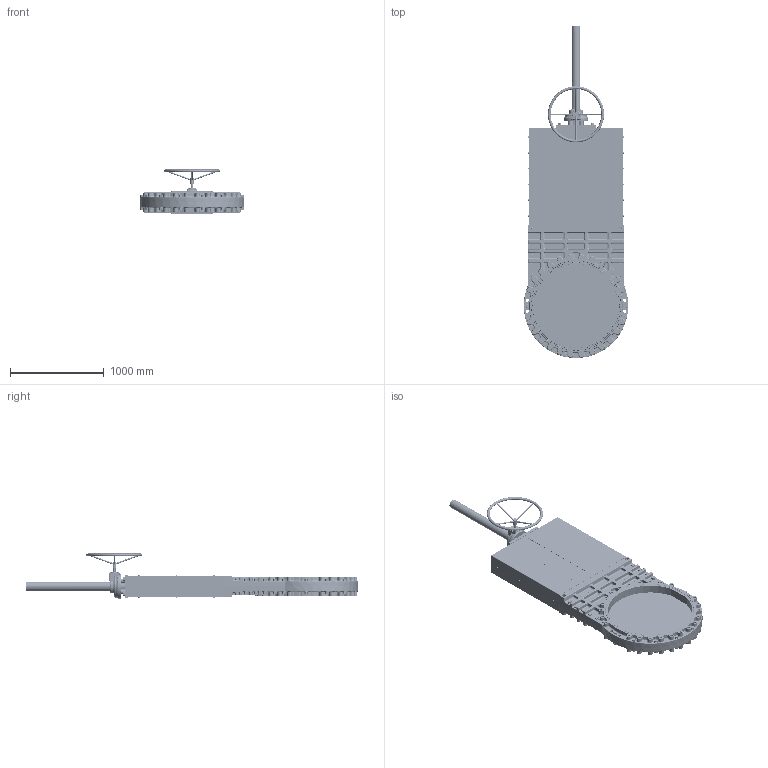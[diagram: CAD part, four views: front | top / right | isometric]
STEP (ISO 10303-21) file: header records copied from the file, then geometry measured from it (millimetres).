
FILE_DESCRIPTION(/* description */ (''),/* implementation_level */ '2;1');
FILE_NAME(/* name */ '明杆刀阀带齿轮箱DN900简图.stp',/* time_stamp */ '2025-12-22T18:24:10+08:00',/* author */ (''),/* organization */ (''),/* preprocessor_version */ 'ST-DEVELOPER v15',/* originating_system */ 'SIEMENS PLM Software NX 10.0',/* authorisation */ '');
FILE_SCHEMA (('AP203_CONFIGURATION_CONTROLLED_3D_DESIGN_OF_MECHANICAL_PARTS_AND_ASSEMBLIES_MIM_LF { 1 0 10303 403 2 1 2}'));
Products named in the file (1): 4D14B8F2lz60
Bounding box: 1115.24 x 3546.41 x 480.97 mm (x, y, z)
Volume: 177920503.2 mm3; surface area: 13441344.9 mm2
Topology: 1 solids, 76 shells, 4985 faces, 11527 edges, 7151 vertices
Faces by surface type: plane 1975, cylinder 1343, bspline 758, cone 658, torus 234, sphere 16, extrusion 1
Full cylindrical faces by diameter (mm): 7.323 x12, 8 x24, 8.4 x12, 9 x12, 9.188 x12, 10 x26, 10.5 x12, 11.4 x12, 14 x24, 15 x4, 15.4 x12, 16 x60, 17 x24, 18 x24, 20 x23, 22 x4, 22.579 x24, 24 x46, 25.5 x44, 26 x21, 26.5 x52, 30 x28, 32 x4, 33 x24, 35 x4, 35.556 x2, 40 x1, 45 x44, 46 x2, 50 x4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
Entity records: 172107 total; most frequent: CARTESIAN_POINT 54005, DIRECTION 20244, ORIENTED_EDGE 19950, EDGE_CURVE 9975, AXIS2_PLACEMENT_3D 8496, EDGE_LOOP 6779, VERTEX_POINT 6698, ADVANCED_FACE 4985
